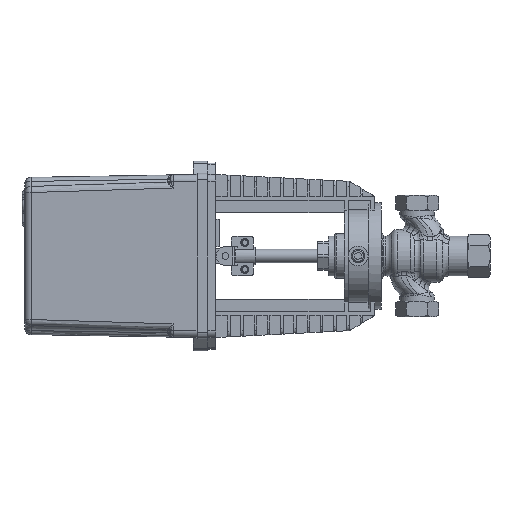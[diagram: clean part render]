
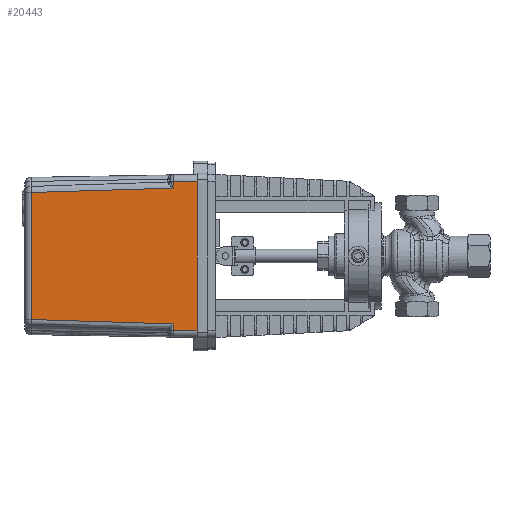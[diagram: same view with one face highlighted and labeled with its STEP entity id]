
A CAD part, left-side view. The second image highlights one B-rep face of the part: STEP entity #20443.
In plain terms, the highlighted planar face has unit normal (-1, 0.018, 0).
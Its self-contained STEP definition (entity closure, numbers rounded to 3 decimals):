
#802=PLANE('',#21944);
#2161=LINE('',#36257,#3845);
#2168=LINE('',#37182,#3852);
#2236=LINE('',#37460,#3920);
#2289=LINE('',#37765,#3973);
#2290=LINE('',#37972,#3974);
#2291=LINE('',#37973,#3975);
#3845=VECTOR('',#25275,10.);
#3852=VECTOR('',#25382,10.);
#3920=VECTOR('',#25592,10.);
#3973=VECTOR('',#25707,10.);
#3974=VECTOR('',#25758,10.);
#3975=VECTOR('',#25759,10.);
#5457=FACE_OUTER_BOUND('',#6587,.T.);
#6587=EDGE_LOOP('',(#16741,#16742,#16743,#16744,#16745,#16746,#16747,#16748,
#16749,#16750));
#7948=B_SPLINE_CURVE_WITH_KNOTS('',3,(#37741,#37742,#37743,#37744),
 .UNSPECIFIED.,.F.,.F.,(4,4),(11.498,11.695),
 .UNSPECIFIED.);
#7949=B_SPLINE_CURVE_WITH_KNOTS('',3,(#37745,#37746,#37747,#37748),
 .UNSPECIFIED.,.F.,.F.,(4,4),(-11.498,-0.983),
 .UNSPECIFIED.);
#7952=B_SPLINE_CURVE_WITH_KNOTS('',3,(#37791,#37792,#37793,#37794),
 .UNSPECIFIED.,.F.,.F.,(4,4),(-13.025,-2.51),
 .UNSPECIFIED.);
#7953=B_SPLINE_CURVE_WITH_KNOTS('',3,(#37795,#37796,#37797,#37798),
 .UNSPECIFIED.,.F.,.F.,(4,4),(2.314,2.51),
 .UNSPECIFIED.);
#9339=VERTEX_POINT('',#36042);
#9351=VERTEX_POINT('',#36255);
#9397=VERTEX_POINT('',#37095);
#9400=VERTEX_POINT('',#37178);
#9495=VERTEX_POINT('',#37459);
#9572=VERTEX_POINT('',#37717);
#9573=VERTEX_POINT('',#37740);
#9576=VERTEX_POINT('',#37761);
#9577=VERTEX_POINT('',#37790);
#9581=VERTEX_POINT('',#37971);
#11837=EDGE_CURVE('',#9351,#9339,#2161,.T.);
#11919=EDGE_CURVE('',#9397,#9400,#2168,.T.);
#12037=EDGE_CURVE('',#9400,#9495,#2236,.T.);
#12130=EDGE_CURVE('',#9573,#9339,#7948,.T.);
#12131=EDGE_CURVE('',#9573,#9572,#7949,.T.);
#12139=EDGE_CURVE('',#9572,#9576,#2289,.T.);
#12141=EDGE_CURVE('',#9576,#9577,#7952,.T.);
#12142=EDGE_CURVE('',#9397,#9577,#7953,.T.);
#12162=EDGE_CURVE('',#9581,#9351,#2290,.T.);
#12163=EDGE_CURVE('',#9495,#9581,#2291,.T.);
#16741=ORIENTED_EDGE('',*,*,#11837,.F.);
#16742=ORIENTED_EDGE('',*,*,#12162,.F.);
#16743=ORIENTED_EDGE('',*,*,#12163,.F.);
#16744=ORIENTED_EDGE('',*,*,#12037,.F.);
#16745=ORIENTED_EDGE('',*,*,#11919,.F.);
#16746=ORIENTED_EDGE('',*,*,#12142,.T.);
#16747=ORIENTED_EDGE('',*,*,#12141,.F.);
#16748=ORIENTED_EDGE('',*,*,#12139,.F.);
#16749=ORIENTED_EDGE('',*,*,#12131,.F.);
#16750=ORIENTED_EDGE('',*,*,#12130,.T.);
#20443=ADVANCED_FACE('',(#5457),#802,.T.);
#21944=AXIS2_PLACEMENT_3D('',#37970,#25756,#25757);
#25275=DIRECTION('',(0.,0.,1.));
#25382=DIRECTION('',(0.,0.,1.));
#25592=DIRECTION('',(-0.017,-1.,0.017));
#25707=DIRECTION('',(0.,0.,1.));
#25756=DIRECTION('center_axis',(-1.,0.017,0.));
#25757=DIRECTION('ref_axis',(0.,0.,
1.));
#25758=DIRECTION('',(0.017,1.,0.017));
#25759=DIRECTION('',(0.,0.,-1.));
#36042=CARTESIAN_POINT('',(-61.185,184.035,-51.199));
#36255=CARTESIAN_POINT('',(-61.185,184.035,-56.186));
#36257=CARTESIAN_POINT('',(-61.185,184.035,1.135));
#37095=CARTESIAN_POINT('',(-61.185,184.035,51.199));
#37178=CARTESIAN_POINT('',(-61.185,184.035,56.186));
#37182=CARTESIAN_POINT('',(-61.185,184.035,60.365));
#37459=CARTESIAN_POINT('',(-61.5,166.,56.501));
#37460=CARTESIAN_POINT('',(-61.483,166.986,56.484));
#37717=CARTESIAN_POINT('',(-59.317,291.087,-47.924));
#37740=CARTESIAN_POINT('',(-61.151,186.,-51.138));
#37741=CARTESIAN_POINT('Ctrl Pts',(-61.151,186.,-51.138));
#37742=CARTESIAN_POINT('Ctrl Pts',(-61.162,185.345,-51.158));
#37743=CARTESIAN_POINT('Ctrl Pts',(-61.174,184.69,-51.178));
#37744=CARTESIAN_POINT('Ctrl Pts',(-61.185,184.035,-51.199));
#37745=CARTESIAN_POINT('Ctrl Pts',(-61.151,186.,-51.138));
#37746=CARTESIAN_POINT('Ctrl Pts',(-60.539,221.029,-50.062));
#37747=CARTESIAN_POINT('Ctrl Pts',(-59.928,256.058,-48.992));
#37748=CARTESIAN_POINT('Ctrl Pts',(-59.317,291.087,-47.924));
#37761=CARTESIAN_POINT('',(-59.317,291.087,47.924));
#37765=CARTESIAN_POINT('',(-59.317,291.087,30.75));
#37790=CARTESIAN_POINT('',(-61.151,186.,51.138));
#37791=CARTESIAN_POINT('Ctrl Pts',(-59.317,291.087,47.924));
#37792=CARTESIAN_POINT('Ctrl Pts',(-59.928,256.058,48.992));
#37793=CARTESIAN_POINT('Ctrl Pts',(-60.539,221.029,50.062));
#37794=CARTESIAN_POINT('Ctrl Pts',(-61.151,186.,51.138));
#37795=CARTESIAN_POINT('Ctrl Pts',(-61.185,184.035,51.199));
#37796=CARTESIAN_POINT('Ctrl Pts',(-61.174,184.69,51.178));
#37797=CARTESIAN_POINT('Ctrl Pts',(-61.162,185.345,51.158));
#37798=CARTESIAN_POINT('Ctrl Pts',(-61.151,186.,51.138));
#37970=CARTESIAN_POINT('Origin',(-61.5,166.,61.5));
#37971=CARTESIAN_POINT('',(-61.5,166.,-56.501));
#37972=CARTESIAN_POINT('',(-61.483,166.986,-56.484));
#37973=CARTESIAN_POINT('',(-61.5,166.,30.75));
